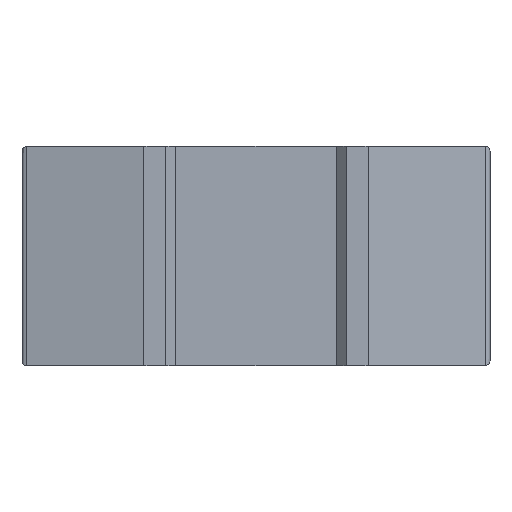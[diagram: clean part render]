
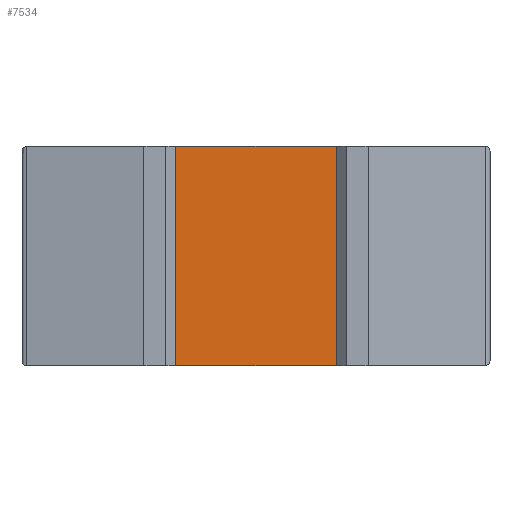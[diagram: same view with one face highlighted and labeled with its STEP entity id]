
A CAD part, front view. The second image highlights one B-rep face of the part: STEP entity #7534.
In plain terms, the highlighted planar face has unit normal (0, -1, 0).
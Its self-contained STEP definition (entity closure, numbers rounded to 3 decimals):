
#178=DIRECTION('',(-1.,0.,0.));
#179=VECTOR('',#178,35.4);
#180=CARTESIAN_POINT('',(17.7,5.5,0.));
#181=LINE('',#180,#179);
#3135=DIRECTION('',(-1.,0.,0.));
#3136=VECTOR('',#3135,35.4);
#3137=CARTESIAN_POINT('',(17.7,5.5,45.));
#3138=LINE('',#3137,#3136);
#3746=DIRECTION('',(0.,0.,1.));
#3747=VECTOR('',#3746,45.);
#3748=CARTESIAN_POINT('',(-17.7,5.5,0.));
#3749=LINE('',#3748,#3747);
#3753=DIRECTION('',(0.,0.,1.));
#3754=VECTOR('',#3753,45.);
#3755=CARTESIAN_POINT('',(17.7,5.5,0.));
#3756=LINE('',#3755,#3754);
#4249=CARTESIAN_POINT('',(17.7,5.5,0.));
#4250=CARTESIAN_POINT('',(-17.7,5.5,0.));
#4251=VERTEX_POINT('',#4249);
#4252=VERTEX_POINT('',#4250);
#4253=CARTESIAN_POINT('',(17.7,5.5,45.));
#4254=CARTESIAN_POINT('',(-17.7,5.5,45.));
#4255=VERTEX_POINT('',#4253);
#4256=VERTEX_POINT('',#4254);
#7522=CARTESIAN_POINT('',(17.7,5.5,0.));
#7523=DIRECTION('',(0.,1.,0.));
#7524=DIRECTION('',(-1.,0.,0.));
#7525=AXIS2_PLACEMENT_3D('',#7522,#7523,#7524);
#7526=PLANE('',#7525);
#7527=ORIENTED_EDGE('',*,*,#4891,.T.);
#7528=ORIENTED_EDGE('',*,*,#7516,.T.);
#7529=ORIENTED_EDGE('',*,*,#6944,.F.);
#7531=ORIENTED_EDGE('',*,*,#7530,.F.);
#7532=EDGE_LOOP('',(#7527,#7528,#7529,#7531));
#7533=FACE_OUTER_BOUND('',#7532,.F.);
#7534=ADVANCED_FACE('',(#7533),#7526,.F.);
#4891=EDGE_CURVE('',#4251,#4252,#181,.T.);
#6944=EDGE_CURVE('',#4255,#4256,#3138,.T.);
#7516=EDGE_CURVE('',#4252,#4256,#3749,.T.);
#7530=EDGE_CURVE('',#4251,#4255,#3756,.T.);
